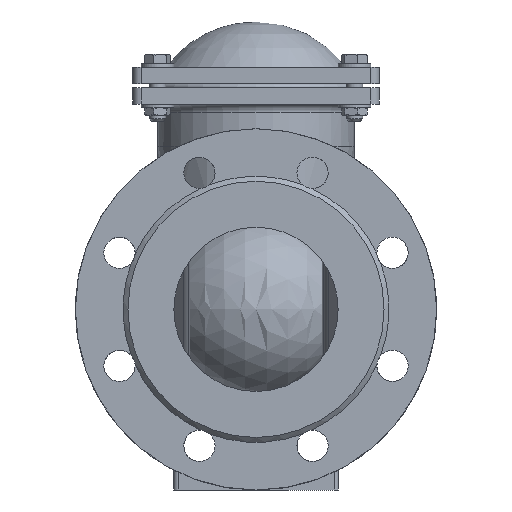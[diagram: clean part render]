
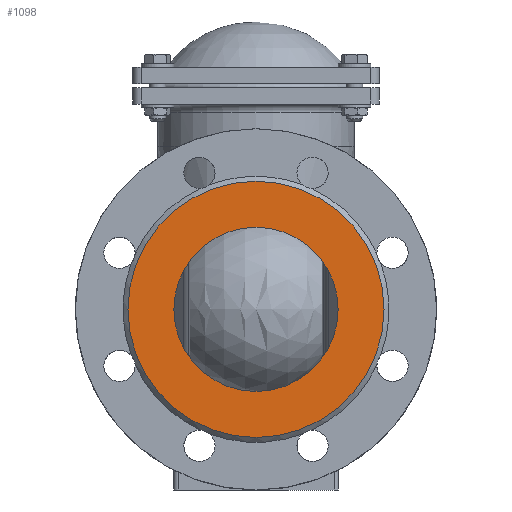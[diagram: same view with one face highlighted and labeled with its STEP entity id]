
A CAD part, left-side view. The second image highlights one B-rep face of the part: STEP entity #1098.
In plain terms, the highlighted planar face has unit normal (-1, 0, 0).
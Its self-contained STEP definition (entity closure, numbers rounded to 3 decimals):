
#1098=ADVANCED_FACE('',(#4463,#4465),#4467,.F.);
#4463=FACE_BOUND('',#4464,.T.);
#4464=EDGE_LOOP('',(#9262));
#4465=FACE_BOUND('',#4466,.T.);
#4466=EDGE_LOOP('',(#9263));
#4467=PLANE('',#4468);
#4468=AXIS2_PLACEMENT_3D('',#4469,#4470,#4471);
#4469=CARTESIAN_POINT('',(-300.,0.,0.));
#4470=DIRECTION('',(1.,0.,0.));
#4471=DIRECTION('',(0.,0.,1.));
#9262=ORIENTED_EDGE('',*,*,#11966,.T.);
#9263=ORIENTED_EDGE('',*,*,#11944,.T.);
#11944=EDGE_CURVE('',#13135,#13135,#13136,.F.);
#11966=EDGE_CURVE('',#13166,#13166,#13167,.T.);
#13135=VERTEX_POINT('',#16170);
#13136=CIRCLE('',#16171,50.);
#13166=VERTEX_POINT('',#16377);
#13167=CIRCLE('',#16378,78.);
#16170=CARTESIAN_POINT('',(-300.,-50.,0.));
#16171=AXIS2_PLACEMENT_3D('',#16172,#16173,#16174);
#16172=CARTESIAN_POINT('',(-300.,0.,0.));
#16173=DIRECTION('',(-1.,0.,0.));
#16174=DIRECTION('',(0.,-1.,0.));
#16377=CARTESIAN_POINT('',(-300.,0.,78.));
#16378=AXIS2_PLACEMENT_3D('',#16379,#16380,#16381);
#16379=CARTESIAN_POINT('',(-300.,0.,0.));
#16380=DIRECTION('',(-1.,0.,0.));
#16381=DIRECTION('',(0.,0.,1.));
